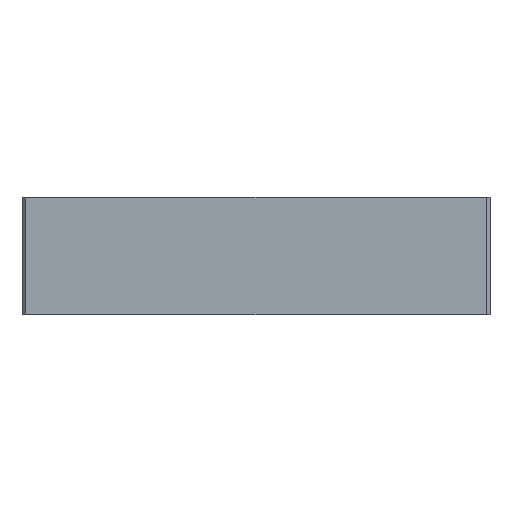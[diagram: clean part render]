
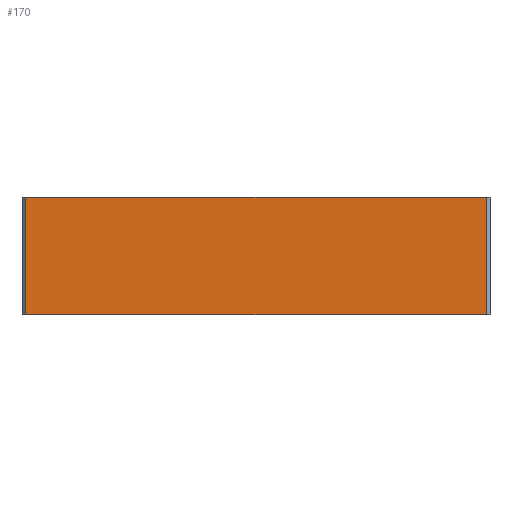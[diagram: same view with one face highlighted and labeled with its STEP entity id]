
A CAD part, front view. The second image highlights one B-rep face of the part: STEP entity #170.
In plain terms, the highlighted planar face has unit normal (0, -1, 0).
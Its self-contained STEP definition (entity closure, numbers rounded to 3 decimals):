
#66 = DIRECTION ( 'NONE',  ( 0., 0., 1. ) ) ;
#153 = CARTESIAN_POINT ( 'NONE',  ( -30., -30., 7.5 ) ) ;
#170 = ADVANCED_FACE ( 'NONE', ( #6216 ), #3982, .F. ) ;
#594 = VECTOR ( 'NONE', #7612, 1000. ) ;
#605 = EDGE_CURVE ( 'NONE', #1327, #701, #2315, .T. ) ;
#701 = VERTEX_POINT ( 'NONE', #6994 ) ;
#773 = EDGE_CURVE ( 'NONE', #814, #3195, #4791, .T. ) ;
#814 = VERTEX_POINT ( 'NONE', #5427 ) ;
#928 = EDGE_LOOP ( 'NONE', ( #1804, #4905, #4962, #5651 ) ) ;
#1157 = EDGE_CURVE ( 'NONE', #701, #3195, #1865, .T. ) ;
#1284 = DIRECTION ( 'NONE',  ( 1., 0., 0. ) ) ;
#1327 = VERTEX_POINT ( 'NONE', #5602 ) ;
#1804 = ORIENTED_EDGE ( 'NONE', *, *, #773, .F. ) ;
#1865 = LINE ( 'NONE', #6582, #4356 ) ;
#1866 = EDGE_CURVE ( 'NONE', #814, #1327, #1887, .T. ) ;
#1887 = LINE ( 'NONE', #7338, #4522 ) ;
#2315 = LINE ( 'NONE', #7142, #594 ) ;
#3176 = DIRECTION ( 'NONE',  ( 0., 0., -1. ) ) ;
#3195 = VERTEX_POINT ( 'NONE', #4812 ) ;
#3311 = DIRECTION ( 'NONE',  ( -1., 0., 0. ) ) ;
#3982 = PLANE ( 'NONE',  #5831 ) ;
#4356 = VECTOR ( 'NONE', #66, 1000. ) ;
#4522 = VECTOR ( 'NONE', #3176, 1000. ) ;
#4791 = LINE ( 'NONE', #153, #7170 ) ;
#4812 = CARTESIAN_POINT ( 'NONE',  ( 29.5, -30., 7.5 ) ) ;
#4905 = ORIENTED_EDGE ( 'NONE', *, *, #1866, .T. ) ;
#4962 = ORIENTED_EDGE ( 'NONE', *, *, #605, .T. ) ;
#5121 = DIRECTION ( 'NONE',  ( 0., 1., 0. ) ) ;
#5427 = CARTESIAN_POINT ( 'NONE',  ( -29.5, -30., 7.5 ) ) ;
#5602 = CARTESIAN_POINT ( 'NONE',  ( -29.5, -30., -7.5 ) ) ;
#5651 = ORIENTED_EDGE ( 'NONE', *, *, #1157, .T. ) ;
#5831 = AXIS2_PLACEMENT_3D ( 'NONE', #6296, #5121, #3311 ) ;
#6216 = FACE_OUTER_BOUND ( 'NONE', #928, .T. ) ;
#6296 = CARTESIAN_POINT ( 'NONE',  ( -30., -30., 7.5 ) ) ;
#6582 = CARTESIAN_POINT ( 'NONE',  ( 29.5, -30., 7.5 ) ) ;
#6994 = CARTESIAN_POINT ( 'NONE',  ( 29.5, -30., -7.5 ) ) ;
#7142 = CARTESIAN_POINT ( 'NONE',  ( -30., -30., -7.5 ) ) ;
#7170 = VECTOR ( 'NONE', #1284, 1000. ) ;
#7338 = CARTESIAN_POINT ( 'NONE',  ( -29.5, -30., 7.5 ) ) ;
#7612 = DIRECTION ( 'NONE',  ( 1., 0., 0. ) ) ;
